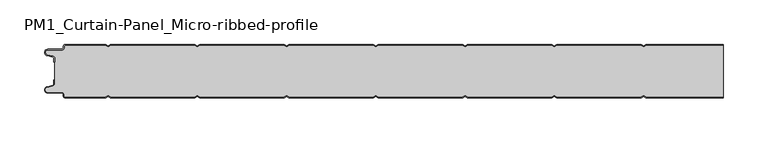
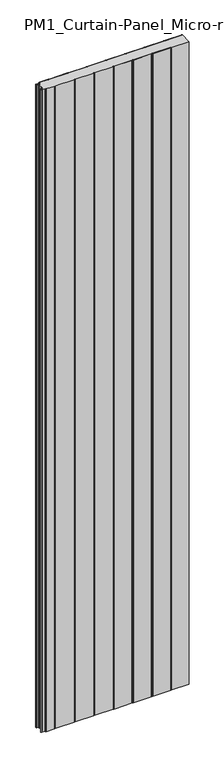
"""IFC4 building model written with IfcOpenShell, lengths in millimetres: plate geometry, PM1_Curtain-Panel_Micro-ribbed-profile : ACH_PM1_Stone-wool-Panel_60M."""

import ifcopenshell
import ifcopenshell.guid

model = None  # the IFC model being written
_history = None  # IfcOwnerHistory: only IFC2X3 demands one
_inside = {}  # id of a spatial element -> (the spatial element, [elements in it])
_under = {}  # id of a project, library or spatial element -> (it, [spatial elements below it])
_declared = {}  # id of a project -> (the project, [libraries it declares])
_typed = {}  # id of a type object -> (the type object, [elements of that type])
_made_of = {}  # id of a material, layer set ... -> (it, [elements and type objects made of it])


def new_model(schema):
    """Start an empty IFC model of exactly this schema.

    Asked for "IFC4X3", IfcOpenShell would pick the latest addendum, in which some entities
    have other attributes; the version numbers below select the first issue.
    IFC2X3 requires an IfcOwnerHistory on every rooted entity: one is made here for all.
    """
    global model, _history
    if schema == "IFC4X3":
        model = ifcopenshell.file(schema_version=(4, 3, 0, 0))
    else:
        model = ifcopenshell.file(schema=schema)
    _inside.clear()
    _under.clear()
    _declared.clear()
    _typed.clear()
    _made_of.clear()
    _history = None
    if model.schema == "IFC2X3":
        org = make("IfcOrganization", Name="unknown")
        user = make(
            "IfcPersonAndOrganization",
            ThePerson=make("IfcPerson", FamilyName="unknown"),
            TheOrganization=org,
        )
        app = make(
            "IfcApplication",
            ApplicationDeveloper=org,
            Version="unknown",
            ApplicationFullName="unknown",
            ApplicationIdentifier="unknown",
        )
        _history = make(
            "IfcOwnerHistory",
            OwningUser=user,
            OwningApplication=app,
            ChangeAction="ADDED",
            CreationDate=0,
        )
    return model


def make(cls, **values):
    """One entity of the class cls with the attributes given. An attribute that is None is left unset."""
    return model.create_entity(
        cls, **{name: value for name, value in values.items() if value is not None}
    )


def rooted(cls, **values):
    """An entity with a GlobalId (a new one), such as an element, a storey or a relation."""
    return make(cls, GlobalId=ifcopenshell.guid.new(), OwnerHistory=_history, **values)


def si_unit(unit_type, name, prefix=None):
    """IfcSIUnit, for example si_unit("LENGTHUNIT", "METRE", prefix="MILLI")."""
    return make("IfcSIUnit", UnitType=unit_type, Prefix=prefix, Name=name)


def assignment(units):
    """IfcUnitAssignment: the units of a project."""
    return None if units is None else make("IfcUnitAssignment", Units=units)


def point(xyz):
    """IfcCartesianPoint."""
    return None if xyz is None else make("IfcCartesianPoint", Coordinates=xyz)


def direction(xyz):
    """IfcDirection."""
    return None if xyz is None else make("IfcDirection", DirectionRatios=xyz)


def frame(location, z_axis=None, x_axis=None):
    """IfcAxis2Placement3D, a coordinate frame: its origin and axes. An axis left out is left unset."""
    return make(
        "IfcAxis2Placement3D",
        Location=point(location),
        Axis=direction(z_axis),
        RefDirection=direction(x_axis),
    )


def frame_2d(location, x_axis=None):
    """IfcAxis2Placement2D, a coordinate frame in the plane: its origin and x axis."""
    return make(
        "IfcAxis2Placement2D", Location=point(location), RefDirection=direction(x_axis)
    )


def origin():
    """The frame at (0, 0, 0) with its axes left unset."""
    return frame((0.0, 0.0, 0.0))


def origin_with_axes():
    """The frame at (0, 0, 0) with the z axis (0, 0, 1) and the x axis (1, 0, 0) written out."""
    return frame((0.0, 0.0, 0.0), z_axis=(0.0, 0.0, 1.0), x_axis=(1.0, 0.0, 0.0))


def place(relative_to, where):
    """IfcLocalPlacement: puts the frame where relative to a parent placement (None: the world)."""
    return make(
        "IfcLocalPlacement", PlacementRelTo=relative_to, RelativePlacement=where
    )


def context(
    kind, dimensions, precision=None, world=None, true_north=None, identifier=None
):
    """IfcGeometricRepresentationContext, for example the 3D "Model" context."""
    return make(
        "IfcGeometricRepresentationContext",
        ContextIdentifier=identifier,
        ContextType=kind,
        CoordinateSpaceDimension=dimensions,
        Precision=precision,
        WorldCoordinateSystem=world,
        TrueNorth=true_north,
    )


def project(units=None, contexts=None):
    """IfcProject with its units and contexts."""
    return rooted(
        "IfcProject",
        Name="project",
        RepresentationContexts=contexts,
        UnitsInContext=assignment(units),
    )


def spatial(cls, under=None, at=None, **own):
    """A site, building, storey or space (cls), placed at a placement, below another one or the project."""
    s = rooted(cls, ObjectPlacement=at, **own)
    if under is not None:
        _under.setdefault(under.id(), (under, []))[1].append(s)
    return s


def polyline(points):
    """IfcPolyline through the points."""
    return make("IfcPolyline", Points=[point(p) for p in points])


def circle_curve(where, radius):
    """IfcCircle in the frame where."""
    return make("IfcCircle", Position=where, Radius=radius)


def trimmed(basis, trim1, trim2, sense, master):
    """IfcTrimmedCurve: the piece of a basis curve between two trims."""
    return make(
        "IfcTrimmedCurve",
        BasisCurve=basis,
        Trim1=trim1,
        Trim2=trim2,
        SenseAgreement=sense,
        MasterRepresentation=master,
    )


def segment(curve, same_sense, transition):
    """IfcCompositeCurveSegment."""
    return make(
        "IfcCompositeCurveSegment",
        Transition=transition,
        SameSense=same_sense,
        ParentCurve=curve,
    )


def composite_curve(segments, self_intersect=None):
    """IfcCompositeCurve: segments joined end to end."""
    return make("IfcCompositeCurve", Segments=segments, SelfIntersect=self_intersect)


def outline(outer, holes=None, kind="AREA"):
    """IfcArbitraryClosedProfileDef: a profile drawn as a closed curve; with holes, ...WithVoids."""
    if holes is None:
        return make("IfcArbitraryClosedProfileDef", ProfileType=kind, OuterCurve=outer)
    return make(
        "IfcArbitraryProfileDefWithVoids",
        ProfileType=kind,
        OuterCurve=outer,
        InnerCurves=holes,
    )


def extrude(swept, where, along, depth):
    """IfcExtrudedAreaSolid: the profile swept, set in the frame where, extruded along a direction by depth."""
    return make(
        "IfcExtrudedAreaSolid",
        SweptArea=swept,
        Position=where,
        ExtrudedDirection=direction(along),
        Depth=depth,
    )


def shape(context_of_items, identifier, shape_type, items):
    """IfcShapeRepresentation: the items that make up one representation, for example the "Body"."""
    return make(
        "IfcShapeRepresentation",
        ContextOfItems=context_of_items,
        RepresentationIdentifier=identifier,
        RepresentationType=shape_type,
        Items=items,
    )


def source(mapping_origin, context_of_items, identifier, shape_type, items):
    """IfcRepresentationMap: a shape defined once, which mapped items show again and again."""
    return make(
        "IfcRepresentationMap",
        MappingOrigin=mapping_origin,
        MappedRepresentation=shape(context_of_items, identifier, shape_type, items),
    )


def transform(
    local_origin,
    x_axis=None,
    y_axis=None,
    z_axis=None,
    scale=None,
    scale2=None,
    scale3=None,
    uniform=True,
):
    """IfcCartesianTransformationOperator3D, or its non-uniform kind. x_axis, y_axis, z_axis: its Axis1, 2, 3."""
    if uniform:
        return make(
            "IfcCartesianTransformationOperator3D",
            Axis1=direction(x_axis),
            Axis2=direction(y_axis),
            LocalOrigin=point(local_origin),
            Scale=scale,
            Axis3=direction(z_axis),
        )
    return make(
        "IfcCartesianTransformationOperator3DnonUniform",
        Axis1=direction(x_axis),
        Axis2=direction(y_axis),
        LocalOrigin=point(local_origin),
        Scale=scale,
        Axis3=direction(z_axis),
        Scale2=scale2,
        Scale3=scale3,
    )


def mapped(mapping_source, mapping_target):
    """IfcMappedItem: shows the shape of a source again, moved by a transform."""
    return make(
        "IfcMappedItem", MappingSource=mapping_source, MappingTarget=mapping_target
    )


def made_of(thing, what):
    """Note that an element or type object is made of a material, layer set ...; save() writes the relation."""
    if what is not None:
        _made_of.setdefault(what.id(), (what, []))[1].append(thing)
    return thing


def element(
    cls,
    number,
    at=None,
    inside=None,
    cuts=None,
    type_object=None,
    material=None,
    context=None,
    identifier="Body",
    shape_type=None,
    held_by="IfcProductDefinitionShape",
    body=None,
    shapes=None,
    **own,
):
    """One element of the class cls, such as IfcWall. Its Tag is "e" and its number.

    at: its placement. inside: the storey or other place that contains it. cuts: it is an
    opening in that element (IfcRelVoidsElement). A single representation is given by context,
    identifier, shape_type and body (its items); several are given by shapes. held_by: the class
    of the entity that holds the representations. save() writes the other relations.
    """
    e = rooted(cls, Tag="e%d" % number, ObjectPlacement=at, **own)
    if body is not None:
        shapes = [shape(context, identifier, shape_type, body)]
    if shapes is not None:
        e.Representation = make(held_by, Representations=shapes)
    if inside is not None:
        _inside.setdefault(inside.id(), (inside, []))[1].append(e)
    if cuts is not None:
        rooted(
            "IfcRelVoidsElement", RelatingBuildingElement=cuts, RelatedOpeningElement=e
        )
    if type_object is not None:
        _typed.setdefault(type_object.id(), (type_object, []))[1].append(e)
    return made_of(e, material)


def aggregate(whole, parts):
    """IfcRelAggregates: a whole, such as a stair, and the parts it consists of."""
    return rooted("IfcRelAggregates", RelatingObject=whole, RelatedObjects=parts)


def save(model, path):
    """Write the relations noted so far, then the file.

    IfcRelAggregates (storeys below a building ...), IfcRelContainedInSpatialStructure (elements
    in a storey), IfcRelDefinesByType, IfcRelAssociatesMaterial and IfcRelDeclares: one each for
    every whole, place, type object, material and project.
    """
    for whole, parts in _under.values():
        aggregate(whole, parts)
    for where, things in _inside.values():
        rooted(
            "IfcRelContainedInSpatialStructure",
            RelatedElements=things,
            RelatingStructure=where,
        )
    for kind, things in _typed.values():
        rooted("IfcRelDefinesByType", RelatedObjects=things, RelatingType=kind)
    for what, things in _made_of.values():
        rooted("IfcRelAssociatesMaterial", RelatedObjects=things, RelatingMaterial=what)
    for by, libraries in _declared.values():
        rooted("IfcRelDeclares", RelatingContext=by, RelatedDefinitions=libraries)
    model.write(path)


def pm1_curtain_panel_micro_ribbed_profile_3c703dab(model_context):
    return source(origin(), model_context, "Body", "SweptSolid", [
        extrude(outline(composite_curve([segment(trimmed(circle_curve(frame_2d((-377.0, -15.878557)), 2.0), [point((-375.0, -15.878557))], [point((-376.5500978, -13.9298169))], True, "CARTESIAN"), True, "CONTINUOUS"), segment(polyline([(-376.5500978, -13.9298169), (-382.7098239, -12.507732)]), True, "CONTINUOUS"), segment(trimmed(circle_curve(frame_2d((-381.9, -9.0)), 3.6), [point((-382.7098239, -12.507732))], [point((-381.9, -5.4))], False, "CARTESIAN"), True, "CONTINUOUS"), segment(polyline([(-381.9, -5.4), (-366.4, -5.4)]), True, "CONTINUOUS"), segment(trimmed(circle_curve(frame_2d((-366.4, -3.4)), 2.0), [point((-366.4, -5.4))], [point((-364.4, -3.4))], True, "CARTESIAN"), True, "CONTINUOUS"), segment(polyline([(-364.4, -3.4), (-364.4, -2.0)]), True, "CONTINUOUS"), segment(trimmed(circle_curve(frame_2d((-362.4, -2.0)), 2.0), [point((-364.4, -2.0))], [point((-362.4, 0.0))], False, "CARTESIAN"), True, "CONTINUOUS"), segment(polyline([(-362.4, 0.0), (-317.0999995, 0.0), (-314.4, -1.5588455), (-311.7000005, 0.0), (-217.0999995, 0.0), (-214.4, -1.5588455), (-211.7000005, 0.0), (-117.0999995, 0.0), (-114.4, -1.5588455), (-111.7000005, 0.0), (-17.0999995, 0.0), (-14.4, -1.5588455), (-11.7000005, 0.0), (82.9000005, 0.0), (85.6, -1.5588455), (88.2999995, 0.0), (182.9000005, 0.0), (185.6, -1.5588455), (188.2999995, 0.0), (282.9000005, 0.0), (285.6, -1.5588455), (288.2999995, 0.0), (375.0, 0.0), (375.0, -0.8), (288.5143588, -0.8), (285.6, -2.482606), (282.6856412, -0.8), (188.5143588, -0.8), (185.6, -2.482606), (182.6856412, -0.8), (88.5143588, -0.8), (85.6, -2.482606), (82.6856412, -0.8), (-11.4856412, -0.8), (-14.4, -2.482606), (-17.3143588, -0.8), (-111.4856412, -0.8), (-114.4, -2.482606), (-117.3143588, -0.8), (-211.4856412, -0.8), (-214.4, -2.482606), (-217.3143588, -0.8), (-311.4856412, -0.8), (-314.4, -2.482606), (-317.3143588, -0.8), (-362.4, -0.8)]), True, "CONTINUOUS"), segment(trimmed(circle_curve(frame_2d((-362.4, -2.0)), 1.2), [point((-362.4, -0.8))], [point((-363.6, -2.0))], True, "CARTESIAN"), True, "CONTINUOUS"), segment(polyline([(-363.6, -2.0), (-363.6, -3.4)]), True, "CONTINUOUS"), segment(trimmed(circle_curve(frame_2d((-366.4, -3.4)), 2.8), [point((-363.6, -3.4))], [point((-366.4, -6.2))], False, "CARTESIAN"), True, "CONTINUOUS"), segment(polyline([(-366.4, -6.2), (-381.9, -6.2)]), True, "CONTINUOUS"), segment(trimmed(circle_curve(frame_2d((-381.9, -9.0)), 2.8), [point((-381.9, -6.2))], [point((-382.529863, -11.7282362))], True, "CARTESIAN"), True, "CONTINUOUS"), segment(polyline([(-382.529863, -11.7282362), (-376.370137, -13.150321)]), True, "CONTINUOUS"), segment(trimmed(circle_curve(frame_2d((-377.0, -15.878557)), 2.8), [point((-376.370137, -13.150321))], [point((-374.2, -15.878557))], False, "CARTESIAN"), True, "CONTINUOUS"), segment(polyline([(-374.2, -15.878557), (-374.2, -20.0), (-375.0, -20.0), (-375.0, -15.878557)]), True, "CONTINUOUS")], self_intersect=False)), origin_with_axes(), (0.0, 0.0, 1.0), 3500.0),
        extrude(outline(composite_curve([segment(polyline([(-374.2, -44.1214426), (-374.2, -15.8785573)]), True, "CONTINUOUS"), segment(trimmed(circle_curve(frame_2d((-377.0, -15.8785573)), 2.8), [point((-374.2, -15.8785573))], [point((-376.370137, -13.1503212))], True, "CARTESIAN"), True, "CONTINUOUS"), segment(polyline([(-376.370137, -13.1503212), (-382.5298631, -11.7282362)]), True, "CONTINUOUS"), segment(trimmed(circle_curve(frame_2d((-381.9, -9.0)), 2.8), [point((-382.5298631, -11.7282362))], [point((-381.9, -6.2))], False, "CARTESIAN"), True, "CONTINUOUS"), segment(polyline([(-381.9, -6.2), (-366.4000001, -6.2)]), True, "CONTINUOUS"), segment(trimmed(circle_curve(frame_2d((-366.4000001, -3.4)), 2.8), [point((-366.4000001, -6.2))], [point((-363.6000001, -3.4))], True, "CARTESIAN"), True, "CONTINUOUS"), segment(polyline([(-363.6000001, -3.4), (-363.6000001, -2.0)]), True, "CONTINUOUS"), segment(trimmed(circle_curve(frame_2d((-362.4000001, -2.0)), 1.2), [point((-363.6000001, -2.0))], [point((-362.4000001, -0.8))], False, "CARTESIAN"), True, "CONTINUOUS"), segment(polyline([(-362.4000001, -0.8), (-317.3143589, -0.8), (-314.4000001, -2.482606), (-311.4856412, -0.8), (-217.3143589, -0.8), (-214.4000001, -2.482606), (-211.4856412, -0.8), (-117.3143589, -0.8), (-114.4000001, -2.482606), (-111.4856412, -0.8), (-17.3143589, -0.8), (-14.4000001, -2.482606), (-11.4856412, -0.8), (82.6856411, -0.8), (85.5999999, -2.482606), (88.5143588, -0.8), (182.6856411, -0.8), (185.5999999, -2.482606), (188.5143588, -0.8), (282.6856411, -0.8), (285.5999999, -2.482606), (288.5143588, -0.8), (375.0, -0.8), (375.0, -59.2), (288.5143588, -59.2), (285.5999999, -57.517394), (282.6856411, -59.2), (188.5143588, -59.2), (185.5999999, -57.517394), (182.6856411, -59.2), (88.5143588, -59.2), (85.5999999, -57.517394), (82.6856411, -59.2), (-11.4856412, -59.2), (-14.4000001, -57.517394), (-17.3143589, -59.2), (-111.4856412, -59.2), (-114.4000001, -57.517394), (-117.3143589, -59.2), (-211.4856412, -59.2), (-214.4000001, -57.517394), (-217.3143589, -59.2), (-311.4856412, -59.2), (-314.4000001, -57.517394), (-317.3143589, -59.2), (-362.4000001, -59.2)]), True, "CONTINUOUS"), segment(trimmed(circle_curve(frame_2d((-362.4000001, -58.0)), 1.2), [point((-362.4000001, -59.2))], [point((-363.6000001, -58.0))], False, "CARTESIAN"), True, "CONTINUOUS"), segment(polyline([(-363.6000001, -58.0), (-363.6000001, -56.6)]), True, "CONTINUOUS"), segment(trimmed(circle_curve(frame_2d((-366.4000001, -56.6)), 2.8), [point((-363.6000001, -56.6))], [point((-366.4000001, -53.8))], True, "CARTESIAN"), True, "CONTINUOUS"), segment(polyline([(-366.4000001, -53.8), (-381.9, -53.8)]), True, "CONTINUOUS"), segment(trimmed(circle_curve(frame_2d((-381.9, -51.0)), 2.8), [point((-381.9, -53.8))], [point((-382.5298631, -48.2717638))], False, "CARTESIAN"), True, "CONTINUOUS"), segment(polyline([(-382.5298631, -48.2717638), (-376.370137, -46.8496788)]), True, "CONTINUOUS"), segment(trimmed(circle_curve(frame_2d((-377.0, -44.1214426)), 2.8), [point((-376.370137, -46.8496788))], [point((-374.2, -44.1214426))], True, "CARTESIAN"), True, "CONTINUOUS")], self_intersect=False)), origin_with_axes(), (0.0, 0.0, 1.0), 3500.0),
        extrude(outline(composite_curve([segment(polyline([(-375.0, -44.121443), (-375.0, -40.0), (-374.2, -40.0), (-374.2, -44.121443)]), True, "CONTINUOUS"), segment(trimmed(circle_curve(frame_2d((-377.0, -44.121443)), 2.8), [point((-374.2, -44.121443))], [point((-376.370137, -46.8496792))], False, "CARTESIAN"), True, "CONTINUOUS"), segment(polyline([(-376.370137, -46.8496792), (-382.529863, -48.271764)]), True, "CONTINUOUS"), segment(trimmed(circle_curve(frame_2d((-381.9, -51.0)), 2.8), [point((-382.529863, -48.271764))], [point((-381.9, -53.8))], True, "CARTESIAN"), True, "CONTINUOUS"), segment(polyline([(-381.9, -53.8), (-366.4, -53.8)]), True, "CONTINUOUS"), segment(trimmed(circle_curve(frame_2d((-366.4, -56.6)), 2.8), [point((-366.4, -53.8))], [point((-363.6, -56.6))], False, "CARTESIAN"), True, "CONTINUOUS"), segment(polyline([(-363.6, -56.6), (-363.6, -58.0)]), True, "CONTINUOUS"), segment(trimmed(circle_curve(frame_2d((-362.4, -58.0)), 1.2), [point((-363.6, -58.0))], [point((-362.4, -59.2))], True, "CARTESIAN"), True, "CONTINUOUS"), segment(polyline([(-362.4, -59.2), (-317.3143588, -59.2), (-314.4, -57.517394), (-311.4856412, -59.2), (-217.3143588, -59.2), (-214.4, -57.517394), (-211.4856412, -59.2), (-117.3143588, -59.2), (-114.4, -57.517394), (-111.4856412, -59.2), (-17.3143588, -59.2), (-14.4, -57.517394), (-11.4856412, -59.2), (82.6856412, -59.2), (85.6, -57.517394), (88.5143588, -59.2), (182.6856412, -59.2), (185.6, -57.517394), (188.5143588, -59.2), (282.6856412, -59.2), (285.6, -57.517394), (288.5143588, -59.2), (375.0, -59.2), (375.0, -60.0), (288.2999995, -60.0), (285.6, -58.4411545), (282.9000005, -60.0), (188.2999995, -60.0), (185.6, -58.4411545), (182.9000005, -60.0), (88.2999995, -60.0), (85.6, -58.4411545), (82.9000005, -60.0), (-11.7000005, -60.0), (-14.4, -58.4411545), (-17.0999995, -60.0), (-111.7000005, -60.0), (-114.4, -58.4411545), (-117.0999995, -60.0), (-211.7000005, -60.0), (-214.4, -58.4411545), (-217.0999995, -60.0), (-311.7000005, -60.0), (-314.4, -58.4411545), (-317.0999995, -60.0), (-362.4, -60.0)]), True, "CONTINUOUS"), segment(trimmed(circle_curve(frame_2d((-362.4, -58.0)), 2.0), [point((-362.4, -60.0))], [point((-364.4, -58.0))], False, "CARTESIAN"), True, "CONTINUOUS"), segment(polyline([(-364.4, -58.0), (-364.4, -56.6)]), True, "CONTINUOUS"), segment(trimmed(circle_curve(frame_2d((-366.4, -56.6)), 2.0), [point((-364.4, -56.6))], [point((-366.4, -54.6))], True, "CARTESIAN"), True, "CONTINUOUS"), segment(polyline([(-366.4, -54.6), (-381.9, -54.6)]), True, "CONTINUOUS"), segment(trimmed(circle_curve(frame_2d((-381.9, -51.0)), 3.6), [point((-381.9, -54.6))], [point((-382.7098239, -47.4922678))], False, "CARTESIAN"), True, "CONTINUOUS"), segment(polyline([(-382.7098239, -47.4922678), (-376.5500979, -46.070183)]), True, "CONTINUOUS"), segment(trimmed(circle_curve(frame_2d((-377.0, -44.121443)), 2.0), [point((-376.5500979, -46.070183))], [point((-375.0, -44.121443))], True, "CARTESIAN"), True, "CONTINUOUS")], self_intersect=False)), origin_with_axes(), (0.0, 0.0, 1.0), 3500.0),
    ])


if __name__ == "__main__":
    model = new_model("IFC4")
    model_context = context("Model", 3, world=origin())
    ifc_project = project(units=[si_unit("LENGTHUNIT", "METRE", prefix="MILLI")], contexts=[model_context])
    site = spatial("IfcSite", under=ifc_project)
    building = spatial("IfcBuilding", under=site)
    placement = place(None, origin())
    pm1_curtain_panel_micro_ribbed_profile_shape = pm1_curtain_panel_micro_ribbed_profile_3c703dab(model_context)
    element("IfcPlate", 1, ObjectType="PM1_Curtain-Panel_Micro-ribbed-profile : ACH_PM1_Stone-wool-Panel_60M", at=placement, inside=building, context=model_context, shape_type="MappedRepresentation", body=[
        mapped(pm1_curtain_panel_micro_ribbed_profile_shape, transform((0.0, 0.0, 0.0), x_axis=(1.0, 0.0, 0.0), y_axis=(0.0, 1.0, 0.0), z_axis=(0.0, 0.0, 1.0))),
    ])
    save(model, "model.ifc")
